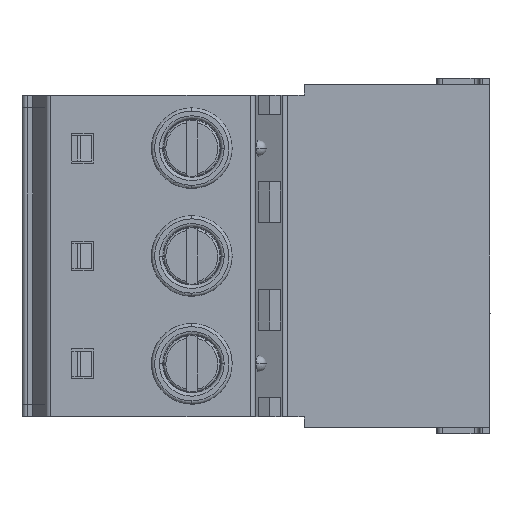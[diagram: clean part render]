
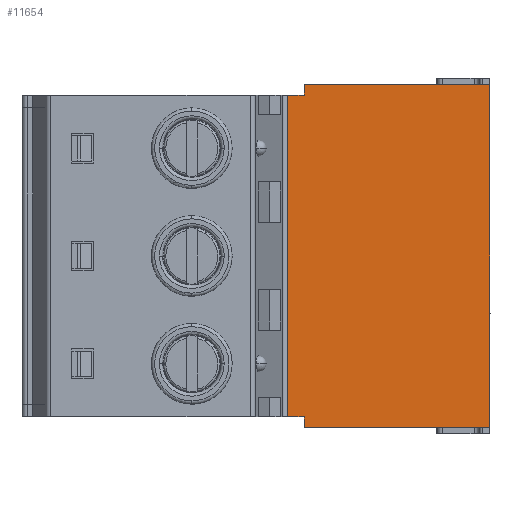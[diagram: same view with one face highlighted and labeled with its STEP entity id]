
A CAD part, left-side view. The second image highlights one B-rep face of the part: STEP entity #11654.
In plain terms, the highlighted planar face has unit normal (-1, 0, 0).
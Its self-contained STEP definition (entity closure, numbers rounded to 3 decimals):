
#1068=DIRECTION('',(0.,0.,1.));
#1069=VECTOR('',#1068,32.32);
#1070=CARTESIAN_POINT('',(14.8,0.,-40.23));
#1071=LINE('',#1070,#1069);
#1291=DIRECTION('',(0.,-1.,0.));
#1292=VECTOR('',#1291,1.59);
#1293=CARTESIAN_POINT('',(14.8,19.09,-8.91));
#1294=LINE('',#1293,#1292);
#1295=DIRECTION('',(0.,0.,1.));
#1296=VECTOR('',#1295,1.);
#1297=CARTESIAN_POINT('',(14.8,17.5,-8.91));
#1298=LINE('',#1297,#1296);
#1299=DIRECTION('',(0.,-1.,0.));
#1300=VECTOR('',#1299,17.5);
#1301=CARTESIAN_POINT('',(14.8,17.5,-7.91));
#1302=LINE('',#1301,#1300);
#1303=DIRECTION('',(0.,1.,0.));
#1304=VECTOR('',#1303,17.5);
#1305=CARTESIAN_POINT('',(14.8,0.,-40.23));
#1306=LINE('',#1305,#1304);
#1307=DIRECTION('',(0.,0.,1.));
#1308=VECTOR('',#1307,1.);
#1309=CARTESIAN_POINT('',(14.8,17.5,-40.23));
#1310=LINE('',#1309,#1308);
#1311=DIRECTION('',(0.,1.,0.));
#1312=VECTOR('',#1311,1.59);
#1313=CARTESIAN_POINT('',(14.8,17.5,-39.23));
#1314=LINE('',#1313,#1312);
#1319=DIRECTION('',(0.,0.,-1.));
#1320=VECTOR('',#1319,30.32);
#1321=CARTESIAN_POINT('',(14.8,19.09,-8.91));
#1322=LINE('',#1321,#1320);
#8473=CARTESIAN_POINT('',(14.8,0.,-40.23));
#8474=CARTESIAN_POINT('',(14.8,0.,-7.91));
#8475=VERTEX_POINT('',#8473);
#8476=VERTEX_POINT('',#8474);
#8898=CARTESIAN_POINT('',(14.8,19.09,-8.91));
#8899=CARTESIAN_POINT('',(14.8,17.5,-8.91));
#8900=VERTEX_POINT('',#8898);
#8901=VERTEX_POINT('',#8899);
#8916=CARTESIAN_POINT('',(14.8,17.5,-7.91));
#8917=VERTEX_POINT('',#8916);
#8962=CARTESIAN_POINT('',(14.8,19.09,-39.23));
#8963=VERTEX_POINT('',#8962);
#8964=CARTESIAN_POINT('',(14.8,17.5,-40.23));
#8965=VERTEX_POINT('',#8964);
#8966=CARTESIAN_POINT('',(14.8,17.5,-39.23));
#8967=VERTEX_POINT('',#8966);
#11632=CARTESIAN_POINT('',(14.8,9.545,-34.69));
#11633=DIRECTION('',(1.,0.,0.));
#11634=DIRECTION('',(0.,-1.,0.));
#11635=AXIS2_PLACEMENT_3D('',#11632,#11633,#11634);
#11636=PLANE('',#11635);
#11638=ORIENTED_EDGE('',*,*,#11637,.F.);
#11640=ORIENTED_EDGE('',*,*,#11639,.T.);
#11642=ORIENTED_EDGE('',*,*,#11641,.T.);
#11644=ORIENTED_EDGE('',*,*,#11643,.T.);
#11645=ORIENTED_EDGE('',*,*,#11516,.F.);
#11647=ORIENTED_EDGE('',*,*,#11646,.T.);
#11649=ORIENTED_EDGE('',*,*,#11648,.T.);
#11651=ORIENTED_EDGE('',*,*,#11650,.T.);
#11652=EDGE_LOOP('',(#11638,#11640,#11642,#11644,#11645,#11647,#11649,#11651));
#11653=FACE_OUTER_BOUND('',#11652,.F.);
#11654=ADVANCED_FACE('',(#11653),#11636,.F.);
#11516=EDGE_CURVE('',#8475,#8476,#1071,.T.);
#11637=EDGE_CURVE('',#8900,#8963,#1322,.T.);
#11639=EDGE_CURVE('',#8900,#8901,#1294,.T.);
#11641=EDGE_CURVE('',#8901,#8917,#1298,.T.);
#11643=EDGE_CURVE('',#8917,#8476,#1302,.T.);
#11646=EDGE_CURVE('',#8475,#8965,#1306,.T.);
#11648=EDGE_CURVE('',#8965,#8967,#1310,.T.);
#11650=EDGE_CURVE('',#8967,#8963,#1314,.T.);
